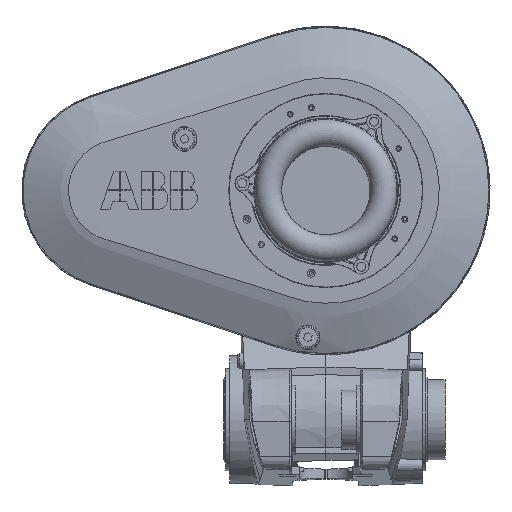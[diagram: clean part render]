
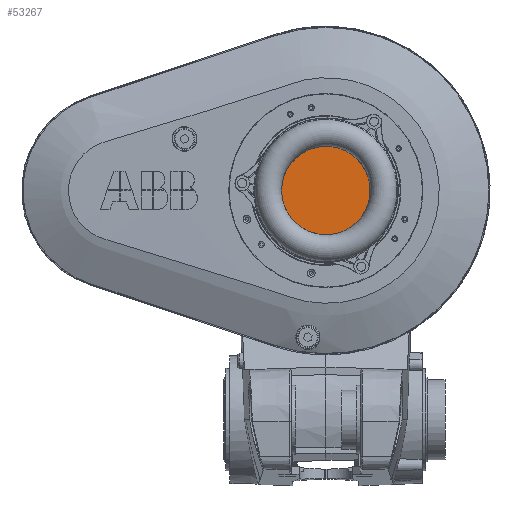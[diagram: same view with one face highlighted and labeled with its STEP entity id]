
A CAD part, left-side view. The second image highlights one B-rep face of the part: STEP entity #53267.
In plain terms, the highlighted planar face has unit normal (-1, 0, 0).
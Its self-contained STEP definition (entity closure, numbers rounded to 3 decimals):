
#1066 = EDGE_LOOP ( 'NONE', ( #26208 ) ) ;
#2526 = DIRECTION ( 'NONE',  ( -1., 0., 0. ) ) ;
#4583 = VERTEX_POINT ( 'NONE', #61825 ) ;
#8046 = CARTESIAN_POINT ( 'NONE',  ( -32.5, 0., 2525. ) ) ;
#8112 = PLANE ( 'NONE',  #59820 ) ;
#11471 = EDGE_CURVE ( 'NONE', #4583, #4583, #14577, .T. ) ;
#12131 = DIRECTION ( 'NONE',  ( 0., 0., -1. ) ) ;
#14577 = CIRCLE ( 'NONE', #37502, 57.892 ) ;
#26208 = ORIENTED_EDGE ( 'NONE', *, *, #11471, .T. ) ;
#31854 = CARTESIAN_POINT ( 'NONE',  ( -32.5, 0., 2525. ) ) ;
#37502 = AXIS2_PLACEMENT_3D ( 'NONE', #8046, #60895, #12131 ) ;
#49709 = DIRECTION ( 'NONE',  ( 0., 0., -1. ) ) ;
#50959 = FACE_OUTER_BOUND ( 'NONE', #1066, .T. ) ;
#53267 = ADVANCED_FACE ( 'NONE', ( #50959 ), #8112, .T. ) ;
#59820 = AXIS2_PLACEMENT_3D ( 'NONE', #31854, #2526, #49709 ) ;
#60895 = DIRECTION ( 'NONE',  ( -1., 0., 0. ) ) ;
#61825 = CARTESIAN_POINT ( 'NONE',  ( -32.5, 0., 2467.108 ) ) ;
